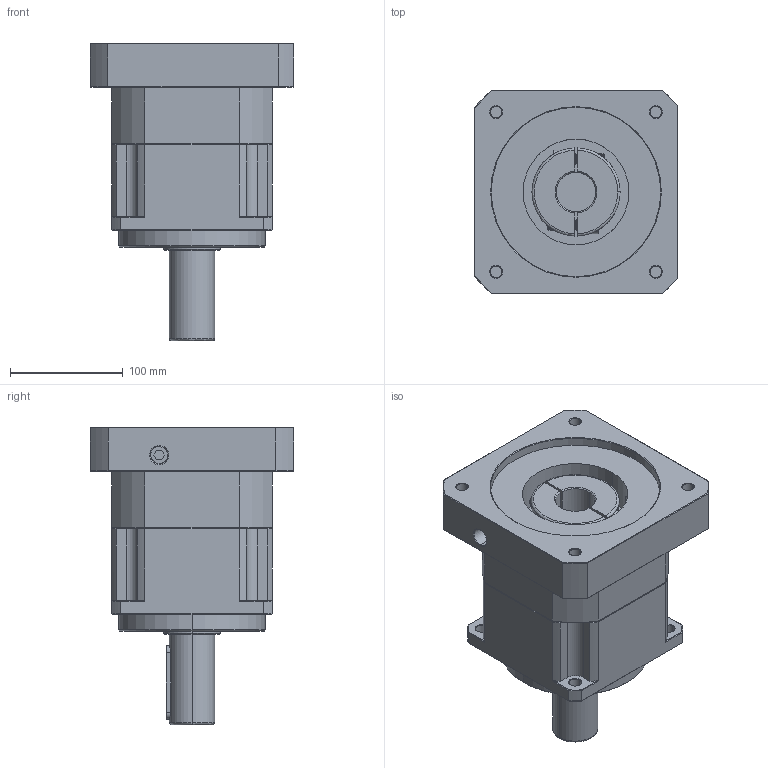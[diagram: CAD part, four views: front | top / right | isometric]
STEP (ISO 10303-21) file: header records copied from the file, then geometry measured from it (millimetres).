
FILE_DESCRIPTION (( 'STEP AP214' ), '1' );
FILE_NAME ('ZPB142-L1-P1-S2-35-150-200-M12.step', '2024-07-05T00:16:31', ( 'Windows 蚚誧' ), ( 'Organization' ), 'SwSTEP 2.0', 'SolidWorks 2016', '' );
FILE_SCHEMA (( 'AUTOMOTIVE_DESIGN' ));
Length unit declared in the file: millimetre
Products named in the file (1): ZPB142-L1-P1-S2-35-150-200-M12
Bounding box: 180 x 180 x 263.5 mm (x, y, z)
Surface area: 235146 mm2 (no closed solid volume)
Topology: 0 solids, 37 shells, 1769 faces, 4724 edges, 3030 vertices
Faces by surface type: plane 912, bspline 383, cone 263, cylinder 211
Full cylindrical faces by diameter (mm): 14 x1
Entity records: 99890 total; most frequent: CARTESIAN_POINT 50502, ORIENTED_EDGE 9423, DIRECTION 7228, EDGE_CURVE 4723, VECTOR 3138, LINE 3138, VERTEX_POINT 3030, AXIS2_PLACEMENT_3D 2045
